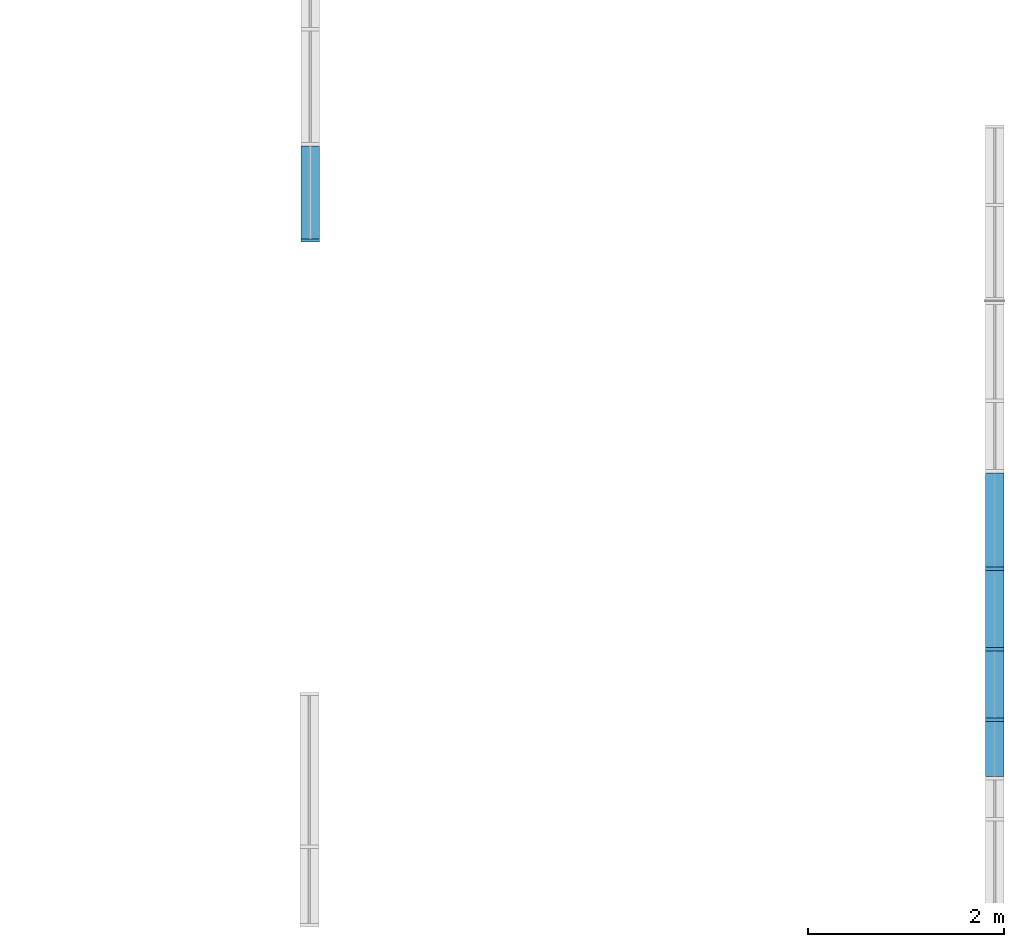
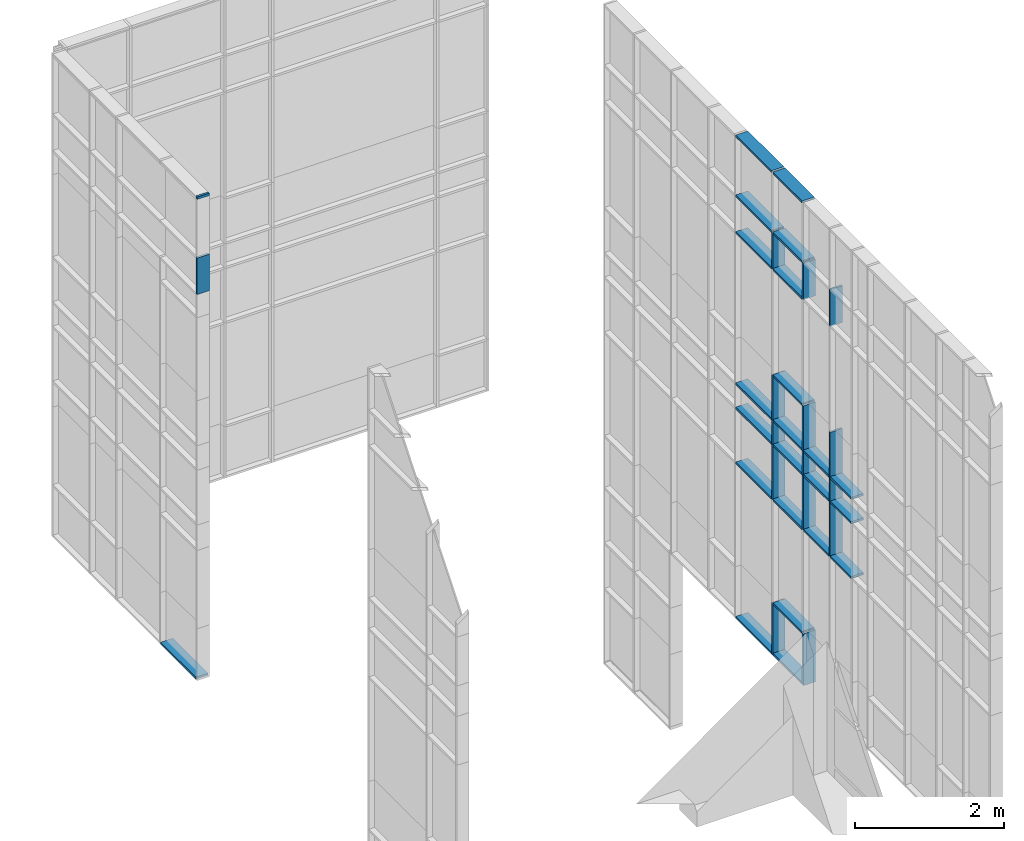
# One storey, part 15 of 73: 39 members, 2 elements without a shape of their own.
"""IFC2X3 building model written with IfcOpenShell, lengths in millimetres."""

from ifc_helpers import new_model, entity, si_unit, converted_unit, derived_unit, direction, frame, frame_2d, origin, origin_2d_with_axis, place, context, subcontext, project, spatial, rectangle, extrude, source, transform, mapped, material, type_object, type_shapes, element, aggregate, save


model = new_model("IFC2X3")

# Units and contexts
model_context = context("Model", 3, precision=0.01, world=origin(), true_north=direction((6.12303176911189e-17, 1.0)))
body_context = subcontext(model_context, "Body", "Model", "MODEL_VIEW")
ifc_project = project(units=[si_unit("LENGTHUNIT", "METRE", prefix="MILLI"), si_unit("AREAUNIT", "SQUARE_METRE"), si_unit("VOLUMEUNIT", "CUBIC_METRE"), converted_unit("PLANEANGLEUNIT", "DEGREE", entity("IfcRatioMeasure", 0.0174532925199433), si_unit("PLANEANGLEUNIT", "RADIAN"), dimensions=[0, 0, 0, 0, 0, 0, 0]), si_unit("MASSUNIT", "GRAM", prefix="KILO"), derived_unit("MASSDENSITYUNIT", [(si_unit("MASSUNIT", "GRAM", prefix="KILO"), 1), (si_unit("LENGTHUNIT", "METRE"), -3)]), si_unit("TIMEUNIT", "SECOND"), si_unit("FREQUENCYUNIT", "HERTZ"), si_unit("THERMODYNAMICTEMPERATUREUNIT", "DEGREE_CELSIUS"), derived_unit("THERMALTRANSMITTANCEUNIT", [(si_unit("MASSUNIT", "GRAM", prefix="KILO"), 1), (si_unit("THERMODYNAMICTEMPERATUREUNIT", "KELVIN"), -1), (si_unit("TIMEUNIT", "SECOND"), -3)]), derived_unit("VOLUMETRICFLOWRATEUNIT", [(si_unit("LENGTHUNIT", "METRE"), 3), (si_unit("TIMEUNIT", "SECOND"), -1)]), si_unit("ELECTRICCURRENTUNIT", "AMPERE"), si_unit("ELECTRICVOLTAGEUNIT", "VOLT"), si_unit("POWERUNIT", "WATT"), si_unit("FORCEUNIT", "NEWTON", prefix="KILO"), si_unit("ILLUMINANCEUNIT", "LUX"), si_unit("LUMINOUSFLUXUNIT", "LUMEN"), si_unit("LUMINOUSINTENSITYUNIT", "CANDELA"), derived_unit("USERDEFINED", [(si_unit("MASSUNIT", "GRAM", prefix="KILO"), -1), (si_unit("LENGTHUNIT", "METRE"), -2), (si_unit("TIMEUNIT", "SECOND"), 3), (si_unit("LUMINOUSFLUXUNIT", "LUMEN"), 1)]), derived_unit("LINEARVELOCITYUNIT", [(si_unit("LENGTHUNIT", "METRE"), 1), (si_unit("TIMEUNIT", "SECOND"), -1)]), si_unit("PRESSUREUNIT", "PASCAL"), derived_unit("USERDEFINED", [(si_unit("LENGTHUNIT", "METRE"), -2), (si_unit("MASSUNIT", "GRAM", prefix="KILO"), 1), (si_unit("TIMEUNIT", "SECOND"), -2)])], contexts=[model_context])

# Site, building, storey
site_placement = place(None, frame((-151.875543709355, 2715.0, 0.0)))
site = spatial("IfcSite", under=ifc_project, at=site_placement, Name="Surface", CompositionType="ELEMENT")
building_placement = place(site_placement, origin())
building = spatial("IfcBuilding", under=site, at=building_placement, CompositionType="ELEMENT")
storey_placement = place(building_placement, frame((0.0, 0.0, 6730.43000000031)))
storey = spatial("IfcBuildingStorey", under=building, at=storey_placement, Name="3 korrus", CompositionType="ELEMENT", Elevation=6730.43000000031)

# Curtain wall, members
curtain_wall_type_1 = type_object("IfcCurtainWallType", Name="Curtain Wall:Klaasfassaad", PredefinedType="NOTDEFINED")
curtain_wall_1_placement = place(storey_placement, frame((0.0, 0.0, -6730.43000000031)))
curtain_wall_1 = element("IfcCurtainWall", 1, at=curtain_wall_1_placement, inside=storey, type_object=curtain_wall_type_1, Name="Curtain Wall:Klaasfassaad", ObjectType="Curtain Wall:Klaasfassaad")
ifc_material = material(Name="Steel/Aluminium")
member_type_1 = type_object("IfcMemberType", Name="35 x 190mm", PredefinedType="MEMBER")
shared_shape_1 = source(origin(), body_context, "Body", "SweptSolid", [
    extrude(rectangle(XDim=190.0, YDim=35.0, at=origin_2d_with_axis()), frame((-17.5, 0.0, -965.0), z_axis=(0.0, 0.0, 1.0), x_axis=(0.0, -1.0, 0.0)), (0.0, 0.0, 1.0), 964.999999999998),
])
type_shapes(member_type_1, [shared_shape_1])
member_1_placement = place(storey_placement, frame((38701.6162681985, 19288.0004565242, -2856.00226032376), z_axis=(0.0, -1.0, 0.0), x_axis=(0.0, 0.0, -1.0)))
member_1 = element("IfcMember", 2, at=member_1_placement, type_object=member_type_1, material=ifc_material, Name="Rectangular Mullion:35 x 190mm", ObjectType="35 x 190mm", context=body_context, shape_type="MappedRepresentation", body=[
    mapped(shared_shape_1, transform((0.0, 0.0, 0.0), scale=1.0)),
])
member_type_2 = type_object("IfcMemberType", Name="35 x 190mm", PredefinedType="MEMBER")
shared_shape_2 = source(origin(), body_context, "Body", "SweptSolid", [
    extrude(rectangle(XDim=190.0, YDim=35.0, at=origin_2d_with_axis()), frame((-17.5, 0.0, -965.0), z_axis=(0.0, 0.0, 1.0), x_axis=(0.0, -1.0, 0.0)), (0.0, 0.0, 1.0), 964.999999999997),
])
type_shapes(member_type_2, [shared_shape_2])
member_2_placement = place(storey_placement, frame((38701.6162681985, 20253.0004565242, 5074.47692901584), z_axis=(0.0, 1.0, 0.0), x_axis=(0.0, 0.0, 1.0)))
member_2 = element("IfcMember", 3, at=member_2_placement, type_object=member_type_2, material=ifc_material, Name="Rectangular Mullion:35 x 190mm", ObjectType="35 x 190mm", context=body_context, shape_type="MappedRepresentation", body=[
    mapped(shared_shape_2, transform((0.0, 0.0, 0.0), scale=1.0)),
])
member_type_3 = type_object("IfcMemberType", Name="35 x 190mm", PredefinedType="MEMBER")
shared_shape_3 = source(origin(), body_context, "Body", "SweptSolid", [
    extrude(rectangle(XDim=190.0, YDim=35.0, at=frame_2d((3.5527136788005e-14, 0.0), x_axis=(1.0, 0.0))), frame((-17.5, 0.0, -785.0), z_axis=(0.0, 0.0, 1.0), x_axis=(0.0, -1.0, 0.0)), (0.0, 0.0, 1.0), 785.000000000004),
])
type_shapes(member_type_3, [shared_shape_3])
member_3_placement = place(storey_placement, frame((38701.6162681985, 18468.0004565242, -2856.00226032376), z_axis=(0.0, -1.0, 0.0), x_axis=(0.0, 0.0, -1.0)))
member_3 = element("IfcMember", 4, at=member_3_placement, type_object=member_type_3, material=ifc_material, Name="Rectangular Mullion:35 x 190mm", ObjectType="35 x 190mm", context=body_context, shape_type="MappedRepresentation", body=[
    mapped(shared_shape_3, transform((0.0, 0.0, 0.0), scale=1.0)),
])
member_type_4 = type_object("IfcMemberType", Name="35 x 190mm", PredefinedType="MEMBER")
shared_shape_4 = source(origin(), body_context, "Body", "SweptSolid", [
    extrude(rectangle(XDim=190.0, YDim=35.0, at=origin_2d_with_axis()), frame((-17.5, 0.0, -785.0), z_axis=(0.0, 0.0, 1.0), x_axis=(0.0, -1.0, 0.0)), (0.0, 0.0, 1.0), 785.000000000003),
])
type_shapes(member_type_4, [shared_shape_4])
member_4_placement = place(storey_placement, frame((38701.6162681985, 19253.0004565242, 5074.47692901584), z_axis=(0.0, 1.0, 0.0), x_axis=(0.0, 0.0, 1.0)))
member_4 = element("IfcMember", 5, at=member_4_placement, type_object=member_type_4, material=ifc_material, Name="Rectangular Mullion:35 x 190mm", ObjectType="35 x 190mm", context=body_context, shape_type="MappedRepresentation", body=[
    mapped(shared_shape_4, transform((0.0, 0.0, 0.0), scale=1.0)),
])
member_type_5 = type_object("IfcMemberType", Name="35 x 190mm", PredefinedType="MEMBER")
shared_shape_5 = source(origin(), body_context, "Body", "SweptSolid", [
    extrude(rectangle(XDim=190.0, YDim=35.0, at=origin_2d_with_axis()), frame((0.0, 0.0, -850.159729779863), z_axis=(0.0, 0.0, 1.0), x_axis=(0.0, -1.0, 0.0)), (0.0, 0.0, 1.0), 850.159729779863),
])
type_shapes(member_type_5, [shared_shape_5])
member_5_placement = place(storey_placement, frame((38701.6162681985, 18450.5004565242, -2856.00226032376), z_axis=(0.0, 0.0, -1.0), x_axis=(0.0, 1.0, 0.0)))
member_5 = element("IfcMember", 6, at=member_5_placement, type_object=member_type_5, material=ifc_material, Name="Rectangular Mullion:35 x 190mm", ObjectType="35 x 190mm", context=body_context, shape_type="MappedRepresentation", body=[
    mapped(shared_shape_5, transform((0.0, 0.0, 0.0), scale=1.0)),
])
member_6_placement = place(storey_placement, frame((38701.6162681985, 19270.5004565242, -2856.00226032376), z_axis=(0.0, 0.0, -1.0), x_axis=(0.0, 1.0, 0.0)))
member_6 = element("IfcMember", 7, at=member_6_placement, type_object=member_type_5, material=ifc_material, Name="Rectangular Mullion:35 x 190mm", ObjectType="35 x 190mm", context=body_context, shape_type="MappedRepresentation", body=[
    mapped(shared_shape_5, transform((0.0, 0.0, 0.0), scale=1.0)),
])
member_type_6 = type_object("IfcMemberType", Name="35 x 190mm", PredefinedType="MEMBER")
shared_shape_6 = source(origin(), body_context, "Body", "SweptSolid", [
    extrude(rectangle(XDim=190.0, YDim=35.0, at=origin_2d_with_axis()), frame((0.0, 0.0, -965.0), z_axis=(0.0, 0.0, 1.0), x_axis=(0.0, -1.0, 0.0)), (0.0, 0.0, 1.0), 964.999999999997),
])
type_shapes(member_type_6, [shared_shape_6])
member_7_placement = place(storey_placement, frame((38701.6162681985, 20253.0004565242, 4074.47692901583), z_axis=(0.0, 1.0, 0.0), x_axis=(0.0, 0.0, 1.0)))
member_7 = element("IfcMember", 8, at=member_7_placement, type_object=member_type_6, material=ifc_material, Name="Rectangular Mullion:35 x 190mm", ObjectType="35 x 190mm", context=body_context, shape_type="MappedRepresentation", body=[
    mapped(shared_shape_6, transform((0.0, 0.0, 0.0), scale=1.0)),
])
member_type_7 = type_object("IfcMemberType", Name="35 x 190mm", PredefinedType="MEMBER")
shared_shape_7 = source(origin(), body_context, "Body", "SweptSolid", [
    extrude(rectangle(XDim=190.0, YDim=35.0, at=origin_2d_with_axis()), frame((0.0, 0.0, -785.0), z_axis=(0.0, 0.0, 1.0), x_axis=(0.0, -1.0, 0.0)), (0.0, 0.0, 1.0), 785.000000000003),
])
type_shapes(member_type_7, [shared_shape_7])
member_8_placement = place(storey_placement, frame((38701.6162681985, 19253.0004565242, 4074.47692901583), z_axis=(0.0, 1.0, 0.0), x_axis=(0.0, 0.0, 1.0)))
member_8 = element("IfcMember", 9, at=member_8_placement, type_object=member_type_7, material=ifc_material, Name="Rectangular Mullion:35 x 190mm", ObjectType="35 x 190mm", context=body_context, shape_type="MappedRepresentation", body=[
    mapped(shared_shape_7, transform((0.0, 0.0, 0.0), scale=1.0)),
])
member_type_8 = type_object("IfcMemberType", Name="35 x 190mm", PredefinedType="MEMBER")
shared_shape_8 = source(origin(), body_context, "Body", "SweptSolid", [
    extrude(rectangle(XDim=190.0, YDim=35.0, at=origin_2d_with_axis()), frame((0.0, 0.0, -965.0), z_axis=(0.0, 0.0, 1.0), x_axis=(0.0, -1.0, 0.0)), (0.0, 0.0, 1.0), 964.999999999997),
])
type_shapes(member_type_8, [shared_shape_8])
member_9_placement = place(storey_placement, frame((38701.6162681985, 20253.0004565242, 3474.47692901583), z_axis=(0.0, 1.0, 0.0), x_axis=(0.0, 0.0, 1.0)))
member_9 = element("IfcMember", 10, at=member_9_placement, type_object=member_type_8, material=ifc_material, Name="Rectangular Mullion:35 x 190mm", ObjectType="35 x 190mm", context=body_context, shape_type="MappedRepresentation", body=[
    mapped(shared_shape_8, transform((0.0, 0.0, 0.0), scale=1.0)),
])
member_type_9 = type_object("IfcMemberType", Name="35 x 190mm", PredefinedType="MEMBER")
shared_shape_9 = source(origin(), body_context, "Body", "SweptSolid", [
    extrude(rectangle(XDim=190.0, YDim=35.0, at=origin_2d_with_axis()), frame((0.0, 0.0, -785.0), z_axis=(0.0, 0.0, 1.0), x_axis=(0.0, -1.0, 0.0)), (0.0, 0.0, 1.0), 785.000000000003),
])
type_shapes(member_type_9, [shared_shape_9])
member_10_placement = place(storey_placement, frame((38701.6162681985, 19253.0004565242, 3474.47692901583), z_axis=(0.0, 1.0, 0.0), x_axis=(0.0, 0.0, 1.0)))
member_10 = element("IfcMember", 11, at=member_10_placement, type_object=member_type_9, material=ifc_material, Name="Rectangular Mullion:35 x 190mm", ObjectType="35 x 190mm", context=body_context, shape_type="MappedRepresentation", body=[
    mapped(shared_shape_9, transform((0.0, 0.0, 0.0), scale=1.0)),
])
member_type_10 = type_object("IfcMemberType", Name="35 x 190mm", PredefinedType="MEMBER")
shared_shape_10 = source(origin(), body_context, "Body", "SweptSolid", [
    extrude(rectangle(XDim=190.0, YDim=35.0, at=origin_2d_with_axis()), frame((0.0, 0.0, -685.0), z_axis=(0.0, 0.0, 1.0), x_axis=(0.0, -1.0, 0.0)), (0.0, 0.0, 1.0), 684.999999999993),
])
type_shapes(member_type_10, [shared_shape_10])
member_11_placement = place(storey_placement, frame((38701.6162681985, 18433.0004565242, 994.476929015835), z_axis=(0.0, 1.0, 0.0), x_axis=(0.0, 0.0, 1.0)))
member_11 = element("IfcMember", 12, at=member_11_placement, type_object=member_type_10, material=ifc_material, Name="Rectangular Mullion:35 x 190mm", ObjectType="35 x 190mm", context=body_context, shape_type="MappedRepresentation", body=[
    mapped(shared_shape_10, transform((0.0, 0.0, 0.0), scale=1.0)),
])
member_type_11 = type_object("IfcMemberType", Name="35 x 190mm", PredefinedType="MEMBER")
shared_shape_11 = source(origin(), body_context, "Body", "SweptSolid", [
    extrude(rectangle(XDim=190.0, YDim=35.0, at=origin_2d_with_axis()), frame((0.0, 0.0, -965.0), z_axis=(0.0, 0.0, 1.0), x_axis=(0.0, -1.0, 0.0)), (0.0, 0.0, 1.0), 964.999999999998),
])
type_shapes(member_type_11, [shared_shape_11])
member_12_placement = place(storey_placement, frame((38701.6162681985, 20253.0004565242, 994.476929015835), z_axis=(0.0, 1.0, 0.0), x_axis=(0.0, 0.0, 1.0)))
member_12 = element("IfcMember", 13, at=member_12_placement, type_object=member_type_11, material=ifc_material, Name="Rectangular Mullion:35 x 190mm", ObjectType="35 x 190mm", context=body_context, shape_type="MappedRepresentation", body=[
    mapped(shared_shape_11, transform((0.0, 0.0, 0.0), scale=1.0)),
])
member_type_12 = type_object("IfcMemberType", Name="35 x 190mm", PredefinedType="MEMBER")
shared_shape_12 = source(origin(), body_context, "Body", "SweptSolid", [
    extrude(rectangle(XDim=190.0, YDim=35.0, at=origin_2d_with_axis()), frame((0.0, 0.0, -565.0), z_axis=(0.0, 0.0, 1.0), x_axis=(0.0, -1.0, 0.0)), (0.0, 0.0, 1.0), 565.000000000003),
])
type_shapes(member_type_12, [shared_shape_12])
member_13_placement = place(storey_placement, frame((38701.6162681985, 17713.0004565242, 994.476929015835), z_axis=(0.0, 1.0, 0.0), x_axis=(0.0, 0.0, 1.0)))
member_13 = element("IfcMember", 14, at=member_13_placement, type_object=member_type_12, material=ifc_material, Name="Rectangular Mullion:35 x 190mm", ObjectType="35 x 190mm", context=body_context, shape_type="MappedRepresentation", body=[
    mapped(shared_shape_12, transform((0.0, 0.0, 0.0), scale=1.0)),
])
member_type_13 = type_object("IfcMemberType", Name="35 x 190mm", PredefinedType="MEMBER")
shared_shape_13 = source(origin(), body_context, "Body", "SweptSolid", [
    extrude(rectangle(XDim=190.0, YDim=35.0, at=origin_2d_with_axis()), frame((0.0, 0.0, -785.0), z_axis=(0.0, 0.0, 1.0), x_axis=(0.0, -1.0, 0.0)), (0.0, 0.0, 1.0), 785.000000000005),
])
type_shapes(member_type_13, [shared_shape_13])
member_14_placement = place(storey_placement, frame((38701.6162681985, 19253.0004565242, 994.476929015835), z_axis=(0.0, 1.0, 0.0), x_axis=(0.0, 0.0, 1.0)))
member_14 = element("IfcMember", 15, at=member_14_placement, type_object=member_type_13, material=ifc_material, Name="Rectangular Mullion:35 x 190mm", ObjectType="35 x 190mm", context=body_context, shape_type="MappedRepresentation", body=[
    mapped(shared_shape_13, transform((0.0, 0.0, 0.0), scale=1.0)),
])
member_type_14 = type_object("IfcMemberType", Name="35 x 190mm", PredefinedType="MEMBER")
shared_shape_14 = source(origin(), body_context, "Body", "SweptSolid", [
    extrude(rectangle(XDim=190.0, YDim=35.0, at=origin_2d_with_axis()), frame((0.0, 0.0, -685.0), z_axis=(0.0, 0.0, 1.0), x_axis=(0.0, -1.0, 0.0)), (0.0, 0.0, 1.0), 684.999999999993),
])
type_shapes(member_type_14, [shared_shape_14])
member_15_placement = place(storey_placement, frame((38701.6162681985, 18433.0004565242, 594.476929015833), z_axis=(0.0, 1.0, 0.0), x_axis=(0.0, 0.0, 1.0)))
member_15 = element("IfcMember", 16, at=member_15_placement, type_object=member_type_14, material=ifc_material, Name="Rectangular Mullion:35 x 190mm", ObjectType="35 x 190mm", context=body_context, shape_type="MappedRepresentation", body=[
    mapped(shared_shape_14, transform((0.0, 0.0, 0.0), scale=1.0)),
])
member_type_15 = type_object("IfcMemberType", Name="35 x 190mm", PredefinedType="MEMBER")
shared_shape_15 = source(origin(), body_context, "Body", "SweptSolid", [
    extrude(rectangle(XDim=190.0, YDim=35.0, at=origin_2d_with_axis()), frame((0.0, 0.0, -965.0), z_axis=(0.0, 0.0, 1.0), x_axis=(0.0, -1.0, 0.0)), (0.0, 0.0, 1.0), 964.999999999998),
])
type_shapes(member_type_15, [shared_shape_15])
member_16_placement = place(storey_placement, frame((38701.6162681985, 20253.0004565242, 594.476929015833), z_axis=(0.0, 1.0, 0.0), x_axis=(0.0, 0.0, 1.0)))
member_16 = element("IfcMember", 17, at=member_16_placement, type_object=member_type_15, material=ifc_material, Name="Rectangular Mullion:35 x 190mm", ObjectType="35 x 190mm", context=body_context, shape_type="MappedRepresentation", body=[
    mapped(shared_shape_15, transform((0.0, 0.0, 0.0), scale=1.0)),
])
member_type_16 = type_object("IfcMemberType", Name="35 x 190mm", PredefinedType="MEMBER")
shared_shape_16 = source(origin(), body_context, "Body", "SweptSolid", [
    extrude(rectangle(XDim=190.0, YDim=35.0, at=origin_2d_with_axis()), frame((0.0, 0.0, -565.0), z_axis=(0.0, 0.0, 1.0), x_axis=(0.0, -1.0, 0.0)), (0.0, 0.0, 1.0), 565.000000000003),
])
type_shapes(member_type_16, [shared_shape_16])
member_17_placement = place(storey_placement, frame((38701.6162681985, 17713.0004565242, 594.476929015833), z_axis=(0.0, 1.0, 0.0), x_axis=(0.0, 0.0, 1.0)))
member_17 = element("IfcMember", 18, at=member_17_placement, type_object=member_type_16, material=ifc_material, Name="Rectangular Mullion:35 x 190mm", ObjectType="35 x 190mm", context=body_context, shape_type="MappedRepresentation", body=[
    mapped(shared_shape_16, transform((0.0, 0.0, 0.0), scale=1.0)),
])
member_type_17 = type_object("IfcMemberType", Name="35 x 190mm", PredefinedType="MEMBER")
shared_shape_17 = source(origin(), body_context, "Body", "SweptSolid", [
    extrude(rectangle(XDim=190.0, YDim=35.0, at=origin_2d_with_axis()), frame((0.0, 0.0, -785.0), z_axis=(0.0, 0.0, 1.0), x_axis=(0.0, -1.0, 0.0)), (0.0, 0.0, 1.0), 785.000000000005),
])
type_shapes(member_type_17, [shared_shape_17])
member_18_placement = place(storey_placement, frame((38701.6162681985, 19253.0004565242, 594.476929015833), z_axis=(0.0, 1.0, 0.0), x_axis=(0.0, 0.0, 1.0)))
member_18 = element("IfcMember", 19, at=member_18_placement, type_object=member_type_17, material=ifc_material, Name="Rectangular Mullion:35 x 190mm", ObjectType="35 x 190mm", context=body_context, shape_type="MappedRepresentation", body=[
    mapped(shared_shape_17, transform((0.0, 0.0, 0.0), scale=1.0)),
])
member_type_18 = type_object("IfcMemberType", Name="35 x 190mm", PredefinedType="MEMBER")
shared_shape_18 = source(origin(), body_context, "Body", "SweptSolid", [
    extrude(rectangle(XDim=190.0, YDim=35.0, at=origin_2d_with_axis()), frame((0.0, 0.0, -685.0), z_axis=(0.0, 0.0, 1.0), x_axis=(0.0, -1.0, 0.0)), (0.0, 0.0, 1.0), 684.999999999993),
])
type_shapes(member_type_18, [shared_shape_18])
member_19_placement = place(storey_placement, frame((38701.6162681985, 18433.0004565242, -305.523070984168), z_axis=(0.0, 1.0, 0.0), x_axis=(0.0, 0.0, 1.0)))
member_19 = element("IfcMember", 20, at=member_19_placement, type_object=member_type_18, material=ifc_material, Name="Rectangular Mullion:35 x 190mm", ObjectType="35 x 190mm", context=body_context, shape_type="MappedRepresentation", body=[
    mapped(shared_shape_18, transform((0.0, 0.0, 0.0), scale=1.0)),
])
member_type_19 = type_object("IfcMemberType", Name="35 x 190mm", PredefinedType="MEMBER")
shared_shape_19 = source(origin(), body_context, "Body", "SweptSolid", [
    extrude(rectangle(XDim=190.0, YDim=35.0, at=origin_2d_with_axis()), frame((0.0, 0.0, -965.0), z_axis=(0.0, 0.0, 1.0), x_axis=(0.0, -1.0, 0.0)), (0.0, 0.0, 1.0), 964.999999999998),
])
type_shapes(member_type_19, [shared_shape_19])
member_20_placement = place(storey_placement, frame((38701.6162681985, 20253.0004565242, -305.523070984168), z_axis=(0.0, 1.0, 0.0), x_axis=(0.0, 0.0, 1.0)))
member_20 = element("IfcMember", 21, at=member_20_placement, type_object=member_type_19, material=ifc_material, Name="Rectangular Mullion:35 x 190mm", ObjectType="35 x 190mm", context=body_context, shape_type="MappedRepresentation", body=[
    mapped(shared_shape_19, transform((0.0, 0.0, 0.0), scale=1.0)),
])
member_type_20 = type_object("IfcMemberType", Name="35 x 190mm", PredefinedType="MEMBER")
shared_shape_20 = source(origin(), body_context, "Body", "SweptSolid", [
    extrude(rectangle(XDim=190.0, YDim=35.0, at=origin_2d_with_axis()), frame((0.0, 0.0, -565.0), z_axis=(0.0, 0.0, 1.0), x_axis=(0.0, -1.0, 0.0)), (0.0, 0.0, 1.0), 565.000000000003),
])
type_shapes(member_type_20, [shared_shape_20])
member_21_placement = place(storey_placement, frame((38701.6162681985, 17713.0004565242, -305.523070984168), z_axis=(0.0, 1.0, 0.0), x_axis=(0.0, 0.0, 1.0)))
member_21 = element("IfcMember", 22, at=member_21_placement, type_object=member_type_20, material=ifc_material, Name="Rectangular Mullion:35 x 190mm", ObjectType="35 x 190mm", context=body_context, shape_type="MappedRepresentation", body=[
    mapped(shared_shape_20, transform((0.0, 0.0, 0.0), scale=1.0)),
])
member_type_21 = type_object("IfcMemberType", Name="35 x 190mm", PredefinedType="MEMBER")
shared_shape_21 = source(origin(), body_context, "Body", "SweptSolid", [
    extrude(rectangle(XDim=190.0, YDim=35.0, at=origin_2d_with_axis()), frame((0.0, 0.0, -785.0), z_axis=(0.0, 0.0, 1.0), x_axis=(0.0, -1.0, 0.0)), (0.0, 0.0, 1.0), 785.000000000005),
])
type_shapes(member_type_21, [shared_shape_21])
member_22_placement = place(storey_placement, frame((38701.6162681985, 19253.0004565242, -305.523070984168), z_axis=(0.0, 1.0, 0.0), x_axis=(0.0, 0.0, 1.0)))
member_22 = element("IfcMember", 23, at=member_22_placement, type_object=member_type_21, material=ifc_material, Name="Rectangular Mullion:35 x 190mm", ObjectType="35 x 190mm", context=body_context, shape_type="MappedRepresentation", body=[
    mapped(shared_shape_21, transform((0.0, 0.0, 0.0), scale=1.0)),
])
member_type_22 = type_object("IfcMemberType", Name="35 x 190mm", PredefinedType="MEMBER")
shared_shape_22 = source(origin(), body_context, "Body", "SweptSolid", [
    extrude(rectangle(XDim=190.0, YDim=35.0, at=origin_2d_with_axis()), frame((0.0, 0.0, -600.0), z_axis=(0.0, 0.0, 1.0), x_axis=(0.0, -1.0, 0.0)), (0.0, 0.0, 1.0), 599.999999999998),
])
type_shapes(member_type_22, [shared_shape_22])
member_23_placement = place(storey_placement, frame((38701.6162681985, 17730.5004565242, 3474.47692901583), z_axis=(0.0, 0.0, -1.0), x_axis=(0.0, 1.0, 0.0)))
member_23 = element("IfcMember", 24, at=member_23_placement, type_object=member_type_22, material=ifc_material, Name="Rectangular Mullion:35 x 190mm", ObjectType="35 x 190mm", context=body_context, shape_type="MappedRepresentation", body=[
    mapped(shared_shape_22, transform((0.0, 0.0, 0.0), scale=1.0)),
])
member_24_placement = place(storey_placement, frame((38701.6162681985, 18450.5004565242, 3474.47692901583), z_axis=(0.0, 0.0, -1.0), x_axis=(0.0, 1.0, 0.0)))
member_24 = element("IfcMember", 25, at=member_24_placement, type_object=member_type_22, material=ifc_material, Name="Rectangular Mullion:35 x 190mm", ObjectType="35 x 190mm", context=body_context, shape_type="MappedRepresentation", body=[
    mapped(shared_shape_22, transform((0.0, 0.0, 0.0), scale=1.0)),
])
member_25_placement = place(storey_placement, frame((38701.6162681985, 19270.5004565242, 3474.47692901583), z_axis=(0.0, 0.0, -1.0), x_axis=(0.0, 1.0, 0.0)))
member_25 = element("IfcMember", 26, at=member_25_placement, type_object=member_type_22, material=ifc_material, Name="Rectangular Mullion:35 x 190mm", ObjectType="35 x 190mm", context=body_context, shape_type="MappedRepresentation", body=[
    mapped(shared_shape_22, transform((0.0, 0.0, 0.0), scale=1.0)),
])
member_type_23 = type_object("IfcMemberType", Name="35 x 190mm", PredefinedType="MEMBER")
shared_shape_23 = source(origin(), body_context, "Body", "SweptSolid", [
    extrude(rectangle(XDim=190.0, YDim=35.0, at=origin_2d_with_axis()), frame((0.0, 0.0, -740.0), z_axis=(0.0, 0.0, 1.0), x_axis=(0.0, -1.0, 0.0)), (0.0, 0.0, 1.0), 740.000000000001),
])
type_shapes(member_type_23, [shared_shape_23])
member_26_placement = place(storey_placement, frame((38701.6162681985, 18450.5004565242, 994.476929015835), z_axis=(0.0, 0.0, -1.0), x_axis=(0.0, 1.0, 0.0)))
member_26 = element("IfcMember", 27, at=member_26_placement, type_object=member_type_23, material=ifc_material, Name="Rectangular Mullion:35 x 190mm", ObjectType="35 x 190mm", context=body_context, shape_type="MappedRepresentation", body=[
    mapped(shared_shape_23, transform((0.0, 0.0, 0.0), scale=1.0)),
])
member_27_placement = place(storey_placement, frame((38701.6162681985, 19270.5004565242, 994.476929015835), z_axis=(0.0, 0.0, -1.0), x_axis=(0.0, 1.0, 0.0)))
member_27 = element("IfcMember", 28, at=member_27_placement, type_object=member_type_23, material=ifc_material, Name="Rectangular Mullion:35 x 190mm", ObjectType="35 x 190mm", context=body_context, shape_type="MappedRepresentation", body=[
    mapped(shared_shape_23, transform((0.0, 0.0, 0.0), scale=1.0)),
])
member_type_24 = type_object("IfcMemberType", Name="35 x 190mm", PredefinedType="MEMBER")
shared_shape_24 = source(origin(), body_context, "Body", "SweptSolid", [
    extrude(rectangle(XDim=190.0, YDim=35.0, at=origin_2d_with_axis()), frame((0.0, 0.0, -400.0), z_axis=(0.0, 0.0, 1.0), x_axis=(0.0, -1.0, 0.0)), (0.0, 0.0, 1.0), 400.0),
])
type_shapes(member_type_24, [shared_shape_24])
member_28_placement = place(storey_placement, frame((38701.6162681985, 17730.5004565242, 594.476929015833), z_axis=(0.0, 0.0, -1.0), x_axis=(0.0, 1.0, 0.0)))
member_28 = element("IfcMember", 29, at=member_28_placement, type_object=member_type_24, material=ifc_material, Name="Rectangular Mullion:35 x 190mm", ObjectType="35 x 190mm", context=body_context, shape_type="MappedRepresentation", body=[
    mapped(shared_shape_24, transform((0.0, 0.0, 0.0), scale=1.0)),
])
member_29_placement = place(storey_placement, frame((38701.6162681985, 18450.5004565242, 594.476929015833), z_axis=(0.0, 0.0, -1.0), x_axis=(0.0, 1.0, 0.0)))
member_29 = element("IfcMember", 30, at=member_29_placement, type_object=member_type_24, material=ifc_material, Name="Rectangular Mullion:35 x 190mm", ObjectType="35 x 190mm", context=body_context, shape_type="MappedRepresentation", body=[
    mapped(shared_shape_24, transform((0.0, 0.0, 0.0), scale=1.0)),
])
member_30_placement = place(storey_placement, frame((38701.6162681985, 19270.5004565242, 594.476929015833), z_axis=(0.0, 0.0, -1.0), x_axis=(0.0, 1.0, 0.0)))
member_30 = element("IfcMember", 31, at=member_30_placement, type_object=member_type_24, material=ifc_material, Name="Rectangular Mullion:35 x 190mm", ObjectType="35 x 190mm", context=body_context, shape_type="MappedRepresentation", body=[
    mapped(shared_shape_24, transform((0.0, 0.0, 0.0), scale=1.0)),
])
member_type_25 = type_object("IfcMemberType", Name="35 x 190mm", PredefinedType="MEMBER")
shared_shape_25 = source(origin(), body_context, "Body", "SweptSolid", [
    extrude(rectangle(XDim=190.0, YDim=35.0, at=origin_2d_with_axis()), frame((0.0, 0.0, -900.0), z_axis=(0.0, 0.0, 1.0), x_axis=(0.0, -1.0, 0.0)), (0.0, 0.0, 1.0), 900.000000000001),
])
type_shapes(member_type_25, [shared_shape_25])
member_31_placement = place(storey_placement, frame((38701.6162681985, 17730.5004565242, -305.523070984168), z_axis=(0.0, 0.0, -1.0), x_axis=(0.0, 1.0, 0.0)))
member_31 = element("IfcMember", 32, at=member_31_placement, type_object=member_type_25, material=ifc_material, Name="Rectangular Mullion:35 x 190mm", ObjectType="35 x 190mm", context=body_context, shape_type="MappedRepresentation", body=[
    mapped(shared_shape_25, transform((0.0, 0.0, 0.0), scale=1.0)),
])
member_32_placement = place(storey_placement, frame((38701.6162681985, 18450.5004565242, -305.523070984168), z_axis=(0.0, 0.0, -1.0), x_axis=(0.0, 1.0, 0.0)))
member_32 = element("IfcMember", 33, at=member_32_placement, type_object=member_type_25, material=ifc_material, Name="Rectangular Mullion:35 x 190mm", ObjectType="35 x 190mm", context=body_context, shape_type="MappedRepresentation", body=[
    mapped(shared_shape_25, transform((0.0, 0.0, 0.0), scale=1.0)),
])
member_33_placement = place(storey_placement, frame((38701.6162681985, 19270.5004565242, -305.523070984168), z_axis=(0.0, 0.0, -1.0), x_axis=(0.0, 1.0, 0.0)))
member_33 = element("IfcMember", 34, at=member_33_placement, type_object=member_type_25, material=ifc_material, Name="Rectangular Mullion:35 x 190mm", ObjectType="35 x 190mm", context=body_context, shape_type="MappedRepresentation", body=[
    mapped(shared_shape_25, transform((0.0, 0.0, 0.0), scale=1.0)),
])
member_type_26 = type_object("IfcMemberType", Name="35 x 190mm", PredefinedType="MEMBER")
shared_shape_26 = source(origin(), body_context, "Body", "SweptSolid", [
    extrude(rectangle(XDim=190.0, YDim=35.0, at=origin_2d_with_axis()), frame((0.0, 0.0, -740.0), z_axis=(0.0, 0.0, 1.0), x_axis=(0.0, -1.0, 0.0)), (0.0, 0.0, 1.0), 740.000000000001),
])
type_shapes(member_type_26, [shared_shape_26])
member_34_placement = place(storey_placement, frame((38701.6162681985, 17730.5004565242, 994.476929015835), z_axis=(0.0, 0.0, -1.0), x_axis=(0.0, 1.0, 0.0)))
member_34 = element("IfcMember", 35, at=member_34_placement, type_object=member_type_26, material=ifc_material, Name="Rectangular Mullion:35 x 190mm", ObjectType="35 x 190mm", context=body_context, shape_type="MappedRepresentation", body=[
    mapped(shared_shape_26, transform((0.0, 0.0, 0.0), scale=1.0)),
])
member_type_27 = type_object("IfcMemberType", Name="35 x 190mm", PredefinedType="MEMBER")
shared_shape_27 = source(origin(), body_context, "Body", "SweptSolid", [
    extrude(rectangle(XDim=190.0, YDim=35.0, at=origin_2d_with_axis()), frame((0.0, 0.0, -785.0), z_axis=(0.0, 0.0, 1.0), x_axis=(0.0, -1.0, 0.0)), (0.0, 0.0, 1.0), 785.000000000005),
])
type_shapes(member_type_27, [shared_shape_27])
member_35_placement = place(storey_placement, frame((38701.6162681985, 19253.0004565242, 1734.47692901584), z_axis=(0.0, 1.0, 0.0), x_axis=(0.0, 0.0, 1.0)))
member_35 = element("IfcMember", 36, at=member_35_placement, type_object=member_type_27, material=ifc_material, Name="Rectangular Mullion:35 x 190mm", ObjectType="35 x 190mm", context=body_context, shape_type="MappedRepresentation", body=[
    mapped(shared_shape_27, transform((0.0, 0.0, 0.0), scale=1.0)),
])
member_type_28 = type_object("IfcMemberType", Name="35 x 190mm", PredefinedType="MEMBER")
shared_shape_28 = source(origin(), body_context, "Body", "SweptSolid", [
    extrude(rectangle(XDim=190.0, YDim=35.0, at=origin_2d_with_axis()), frame((0.0, 0.0, -785.0), z_axis=(0.0, 0.0, 1.0), x_axis=(0.0, -1.0, 0.0)), (0.0, 0.0, 1.0), 785.000000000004),
])
type_shapes(member_type_28, [shared_shape_28])
member_36_placement = place(storey_placement, frame((38701.6162681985, 19253.0004565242, -2005.8425305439), z_axis=(0.0, 1.0, 0.0), x_axis=(0.0, 0.0, 1.0)))
member_36 = element("IfcMember", 37, at=member_36_placement, type_object=member_type_28, material=ifc_material, Name="Rectangular Mullion:35 x 190mm", ObjectType="35 x 190mm", context=body_context, shape_type="MappedRepresentation", body=[
    mapped(shared_shape_28, transform((0.0, 0.0, 0.0), scale=1.0)),
])
aggregate(curtain_wall_1, [member_3, member_4, member_1, member_2, member_5, member_6, member_8, member_7, member_10, member_9, member_13, member_11, member_14, member_12, member_17, member_15, member_18, member_16, member_21, member_19, member_22, member_20, member_23, member_34, member_28, member_31, member_24, member_26, member_29, member_32, member_25, member_27, member_30, member_33, member_35, member_36])

curtain_wall_type_2 = type_object("IfcCurtainWallType", Name="Curtain Wall:Klaasfassaad2", PredefinedType="NOTDEFINED")
curtain_wall_2_placement = place(storey_placement, frame((0.0, 0.0, -6730.43000000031)))
curtain_wall_2 = element("IfcCurtainWall", 38, at=curtain_wall_2_placement, inside=storey, type_object=curtain_wall_type_2, Name="Curtain Wall:Klaasfassaad2", ObjectType="Curtain Wall:Klaasfassaad2")
member_type_29 = type_object("IfcMemberType", Name="35 x 190mm", PredefinedType="MEMBER")
shared_shape_29 = source(origin(), body_context, "Body", "SweptSolid", [
    extrude(rectangle(XDim=190.0, YDim=35.0, at=origin_2d_with_axis()), frame((-17.5, 0.0, -40.0), z_axis=(0.0, 0.0, 1.0), x_axis=(0.0, -1.0, 0.0)), (0.0, 0.0, 1.0), 39.9999999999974),
])
type_shapes(member_type_29, [shared_shape_29])
member_37_placement = place(storey_placement, frame((31707.6162682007, 22610.0, 5074.47692901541), z_axis=(0.0, 0.0, 1.0), x_axis=(0.0, -1.0, 0.0)))
member_37 = element("IfcMember", 39, at=member_37_placement, type_object=member_type_29, material=ifc_material, Name="Rectangular Mullion:35 x 190mm", ObjectType="35 x 190mm", context=body_context, shape_type="MappedRepresentation", body=[
    mapped(shared_shape_29, transform((0.0, 0.0, 0.0), scale=1.0)),
])
member_type_30 = type_object("IfcMemberType", Name="35 x 190mm", PredefinedType="MEMBER")
shared_shape_30 = source(origin(), body_context, "Body", "SweptSolid", [
    extrude(rectangle(XDim=190.0, YDim=35.0, at=origin_2d_with_axis()), frame((-17.5, 0.0, -600.0), z_axis=(0.0, 0.0, 1.0), x_axis=(0.0, -1.0, 0.0)), (0.0, 0.0, 1.0), 600.000000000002),
])
type_shapes(member_type_30, [shared_shape_30])
member_38_placement = place(storey_placement, frame((31707.6162682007, 22610.0, 4074.47692901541), z_axis=(0.0, 0.0, 1.0), x_axis=(0.0, -1.0, 0.0)))
member_38 = element("IfcMember", 40, at=member_38_placement, type_object=member_type_30, material=ifc_material, Name="Rectangular Mullion:35 x 190mm", ObjectType="35 x 190mm", context=body_context, shape_type="MappedRepresentation", body=[
    mapped(shared_shape_30, transform((0.0, 0.0, 0.0), scale=1.0)),
])
member_type_31 = type_object("IfcMemberType", Name="35 x 190mm", PredefinedType="MEMBER")
shared_shape_31 = source(origin(), body_context, "Body", "SweptSolid", [
    extrude(rectangle(XDim=190.0, YDim=35.0, at=origin_2d_with_axis()), frame((-17.5, 0.0, -947.500000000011), z_axis=(0.0, 0.0, 1.0), x_axis=(0.0, -1.0, 0.0)), (0.0, 0.0, 1.0), 947.499999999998),
])
type_shapes(member_type_31, [shared_shape_31])
member_39_placement = place(storey_placement, frame((31707.6162682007, 22645.0, -2856.00226032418), z_axis=(0.0, -1.0, 0.0), x_axis=(0.0, 0.0, -1.0)))
member_39 = element("IfcMember", 41, at=member_39_placement, type_object=member_type_31, material=ifc_material, Name="Rectangular Mullion:35 x 190mm", ObjectType="35 x 190mm", context=body_context, shape_type="MappedRepresentation", body=[
    mapped(shared_shape_31, transform((0.0, 0.0, 0.0), scale=1.0)),
])
aggregate(curtain_wall_2, [member_37, member_39, member_38])

save(model, "model.ifc")
